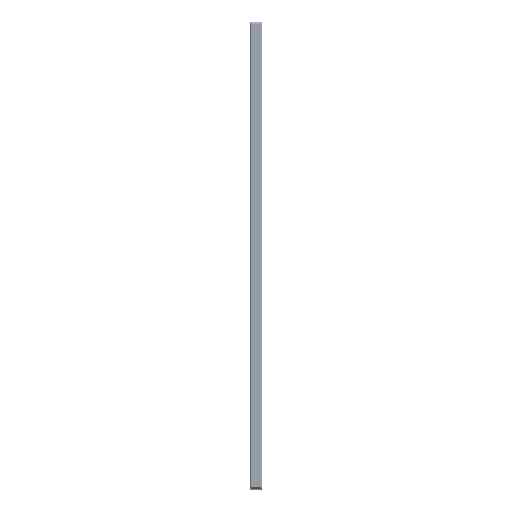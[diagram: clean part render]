
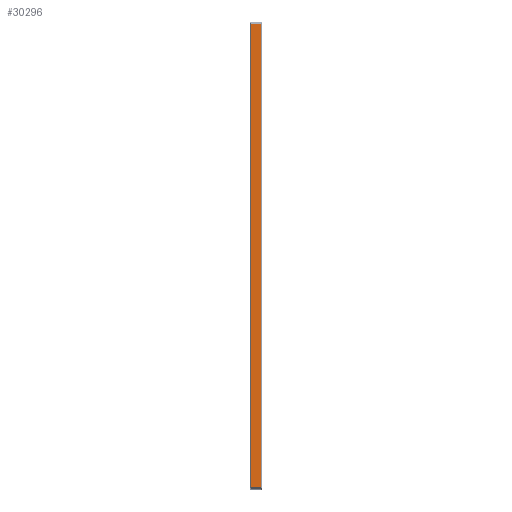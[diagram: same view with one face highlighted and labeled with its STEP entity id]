
A CAD part, top view. The second image highlights one B-rep face of the part: STEP entity #30296.
In plain terms, the highlighted planar face has unit normal (0, 0, 1).
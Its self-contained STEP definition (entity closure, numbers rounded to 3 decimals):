
#9250=FACE_OUTER_BOUND($,#13113,.T.);
#13113=EDGE_LOOP($,(#25627,#25628,#25629,#25630));
#17736=LINE($,#48869,#17776);
#17744=LINE($,#50422,#17784);
#17749=LINE($,#50432,#17789);
#17767=LINE($,#52004,#17807);
#17776=VECTOR($,#38022,13.);
#17784=VECTOR($,#39572,596.);
#17789=VECTOR($,#39579,13.);
#17807=VECTOR($,#41151,596.);
#17815=VERTEX_POINT($,#48866);
#17816=VERTEX_POINT($,#48868);
#18590=VERTEX_POINT($,#50420);
#18594=VERTEX_POINT($,#50430);
#20916=EDGE_CURVE($,#17815,#17816,#17736,.T.);
#21693=EDGE_CURVE($,#18590,#17815,#17744,.T.);
#21698=EDGE_CURVE($,#18594,#18590,#17749,.T.);
#22485=EDGE_CURVE($,#17816,#18594,#17767,.T.);
#25627=ORIENTED_EDGE($,*,*,#21693,.F.);
#25628=ORIENTED_EDGE($,*,*,#21698,.F.);
#25629=ORIENTED_EDGE($,*,*,#22485,.F.);
#25630=ORIENTED_EDGE($,*,*,#20916,.F.);
#30273=PLANE($,#34162);
#30296=ADVANCED_FACE($,(#9250),#30273,.T.);
#34162=AXIS2_PLACEMENT_3D($,#52009,#41156,#41157);
#38022=DIRECTION($,(1.,0.,0.));
#39572=DIRECTION($,(0.,1.,0.));
#39579=DIRECTION($,(-1.,0.,0.));
#41151=DIRECTION($,(0.,-1.,0.));
#41156=DIRECTION('center_axis',(0.,0.,1.));
#41157=DIRECTION('ref_axis',(0.,-1.,0.));
#48866=CARTESIAN_POINT('',(1.,598.,800.));
#48868=CARTESIAN_POINT('',(14.,598.,800.));
#48869=CARTESIAN_POINT($,(0.,598.,800.));
#50420=CARTESIAN_POINT('',(1.,2.,800.));
#50422=CARTESIAN_POINT($,(1.,450.,800.));
#50430=CARTESIAN_POINT('',(14.,2.,800.));
#50432=CARTESIAN_POINT($,(0.,2.,800.));
#52004=CARTESIAN_POINT($,(14.,450.,800.));
#52009=CARTESIAN_POINT('Origin',(0.,600.,800.));
